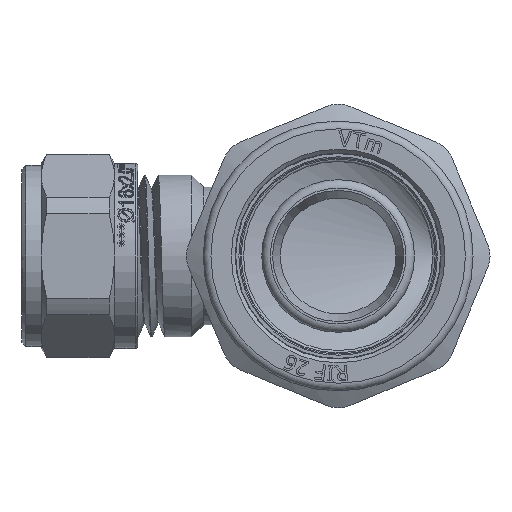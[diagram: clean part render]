
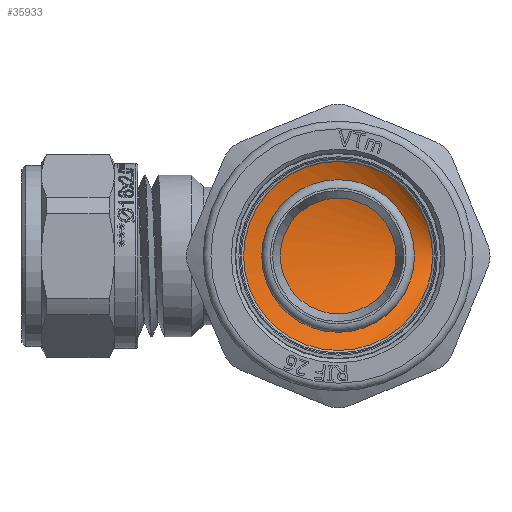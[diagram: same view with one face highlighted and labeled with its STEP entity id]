
A CAD part, left-side view. The second image highlights one B-rep face of the part: STEP entity #35933.
In plain terms, the highlighted cylindrical face has radius 15.25 mm (diameter 30.5 mm), a full revolution.
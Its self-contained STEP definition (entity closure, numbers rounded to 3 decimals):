
#2045=FACE_OUTER_BOUND('',#4084,.T.);
#4084=EDGE_LOOP('',(#24136,#24137,#24138,#24139,#24140,#24141,#24142,#24143));
#6295=CIRCLE('',#37995,15.25);
#6296=CIRCLE('',#37996,15.25);
#6297=CIRCLE('',#37997,15.25);
#7182=B_SPLINE_CURVE_WITH_KNOTS('',3,(#45888,#45889,#45890,#45891,#45892,
#45893,#45894,#45895,#45896,#45897,#45898,#45899,#45900,#45901,#45902,#45903,
#45904,#45905,#45906,#45907,#45908,#45909,#45910,#45911,#45912,#45913,#45914,
#45915,#45916,#45917,#45918,#45919,#45920,#45921),.UNSPECIFIED.,.F.,.F.,
(4,3,3,3,3,3,3,3,3,3,3,4),(1.209,1.479,1.972,
2.465,2.958,3.451,3.944,4.437,
4.93,5.424,5.917,6.096),
 .UNSPECIFIED.);
#7183=B_SPLINE_CURVE_WITH_KNOTS('',3,(#45924,#45925,#45926,#45927,#45928,
#45929,#45930,#45931,#45932,#45933),.UNSPECIFIED.,.F.,.F.,(4,3,3,4),(-1.271,
-0.973,-0.486,-0.148),.UNSPECIFIED.);
#9579=LINE('',#45886,#12017);
#9580=LINE('',#45935,#12018);
#12017=VECTOR('',#39814,15.25);
#12018=VECTOR('',#39817,15.25);
#14455=VERTEX_POINT('',#45884);
#14456=VERTEX_POINT('',#45885);
#14457=VERTEX_POINT('',#45887);
#14458=VERTEX_POINT('',#45922);
#14459=VERTEX_POINT('',#45934);
#14460=VERTEX_POINT('',#45936);
#18358=EDGE_CURVE('',#14455,#14456,#9579,.T.);
#18359=EDGE_CURVE('',#14457,#14455,#7182,.T.);
#18360=EDGE_CURVE('',#14458,#14457,#6295,.T.);
#18361=EDGE_CURVE('',#14456,#14458,#7183,.T.);
#18362=EDGE_CURVE('',#14456,#14459,#9580,.T.);
#18363=EDGE_CURVE('',#14460,#14459,#6296,.T.);
#18364=EDGE_CURVE('',#14459,#14460,#6297,.T.);
#24136=ORIENTED_EDGE('',*,*,#18358,.F.);
#24137=ORIENTED_EDGE('',*,*,#18359,.F.);
#24138=ORIENTED_EDGE('',*,*,#18360,.F.);
#24139=ORIENTED_EDGE('',*,*,#18361,.F.);
#24140=ORIENTED_EDGE('',*,*,#18362,.T.);
#24141=ORIENTED_EDGE('',*,*,#18363,.F.);
#24142=ORIENTED_EDGE('',*,*,#18364,.F.);
#24143=ORIENTED_EDGE('',*,*,#18362,.F.);
#35692=CYLINDRICAL_SURFACE('',#37994,15.25);
#35933=ADVANCED_FACE('',(#2045),#35692,.F.);
#37994=AXIS2_PLACEMENT_3D('',#45883,#39812,#39813);
#37995=AXIS2_PLACEMENT_3D('',#45923,#39815,#39816);
#37996=AXIS2_PLACEMENT_3D('',#45937,#39818,#39819);
#37997=AXIS2_PLACEMENT_3D('',#45938,#39820,#39821);
#39812=DIRECTION('center_axis',(1.,0.,0.));
#39813=DIRECTION('ref_axis',(0.,1.,0.));
#39814=DIRECTION('',(-1.,0.,0.));
#39815=DIRECTION('center_axis',(-1.,0.,0.));
#39816=DIRECTION('ref_axis',(0.,1.,0.));
#39817=DIRECTION('',(-1.,0.,0.));
#39818=DIRECTION('center_axis',(1.,0.,0.));
#39819=DIRECTION('ref_axis',(0.,0.,1.));
#39820=DIRECTION('center_axis',(1.,0.,0.));
#39821=DIRECTION('ref_axis',(0.,0.,1.));
#45883=CARTESIAN_POINT('Origin',(-31.82,0.,
0.));
#45884=CARTESIAN_POINT('',(-27.611,-15.25,0.));
#45885=CARTESIAN_POINT('',(-28.989,-15.25,0.));
#45886=CARTESIAN_POINT('',(-31.82,-15.25,0.));
#45887=CARTESIAN_POINT('',(-29.4,-2.658,-15.017));
#45888=CARTESIAN_POINT('Ctrl Pts',(-29.4,-2.658,-15.015));
#45889=CARTESIAN_POINT('Ctrl Pts',(-29.367,-1.303,-15.255));
#45890=CARTESIAN_POINT('Ctrl Pts',(-29.334,0.084,
-15.313));
#45891=CARTESIAN_POINT('Ctrl Pts',(-29.301,1.453,-15.182));
#45892=CARTESIAN_POINT('Ctrl Pts',(-29.241,3.947,-14.943));
#45893=CARTESIAN_POINT('Ctrl Pts',(-29.181,6.382,-14.077));
#45894=CARTESIAN_POINT('Ctrl Pts',(-29.12,8.466,-12.686));
#45895=CARTESIAN_POINT('Ctrl Pts',(-29.06,10.55,-11.295));
#45896=CARTESIAN_POINT('Ctrl Pts',(-29.,12.284,-9.38));
#45897=CARTESIAN_POINT('Ctrl Pts',(-28.94,13.462,-7.168));
#45898=CARTESIAN_POINT('Ctrl Pts',(-28.88,14.639,-4.956));
#45899=CARTESIAN_POINT('Ctrl Pts',(-28.82,15.261,-2.448));
#45900=CARTESIAN_POINT('Ctrl Pts',(-28.759,15.251,0.057));
#45901=CARTESIAN_POINT('Ctrl Pts',(-28.699,15.242,2.563));
#45902=CARTESIAN_POINT('Ctrl Pts',(-28.639,14.602,5.066));
#45903=CARTESIAN_POINT('Ctrl Pts',(-28.579,13.407,7.269));
#45904=CARTESIAN_POINT('Ctrl Pts',(-28.519,12.213,9.472));
#45905=CARTESIAN_POINT('Ctrl Pts',(-28.459,10.465,11.374));
#45906=CARTESIAN_POINT('Ctrl Pts',(-28.399,8.37,12.749));
#45907=CARTESIAN_POINT('Ctrl Pts',(-28.338,6.275,14.124));
#45908=CARTESIAN_POINT('Ctrl Pts',(-28.278,3.835,14.972));
#45909=CARTESIAN_POINT('Ctrl Pts',(-28.218,1.339,15.192));
#45910=CARTESIAN_POINT('Ctrl Pts',(-28.158,-1.157,
15.412));
#45911=CARTESIAN_POINT('Ctrl Pts',(-28.098,-3.709,15.004));
#45912=CARTESIAN_POINT('Ctrl Pts',(-28.038,-6.012,
14.016));
#45913=CARTESIAN_POINT('Ctrl Pts',(-27.977,-8.314,
13.029));
#45914=CARTESIAN_POINT('Ctrl Pts',(-27.917,-10.369,
11.462));
#45915=CARTESIAN_POINT('Ctrl Pts',(-27.857,-11.93,
9.502));
#45916=CARTESIAN_POINT('Ctrl Pts',(-27.797,-13.491,
7.542));
#45917=CARTESIAN_POINT('Ctrl Pts',(-27.737,-14.559,
5.189));
#45918=CARTESIAN_POINT('Ctrl Pts',(-27.677,-15.006,
2.723));
#45919=CARTESIAN_POINT('Ctrl Pts',(-27.655,-15.169,
1.826));
#45920=CARTESIAN_POINT('Ctrl Pts',(-27.633,-15.25,
0.913));
#45921=CARTESIAN_POINT('Ctrl Pts',(-27.611,-15.249,
0.));
#45922=CARTESIAN_POINT('',(-29.4,-6.611,13.743));
#45923=CARTESIAN_POINT('Origin',(-29.4,0.,
0.));
#45924=CARTESIAN_POINT('Ctrl Pts',(-28.989,-15.249,
0.));
#45925=CARTESIAN_POINT('Ctrl Pts',(-29.025,-15.248,
1.515));
#45926=CARTESIAN_POINT('Ctrl Pts',(-29.062,-15.024,
3.03));
#45927=CARTESIAN_POINT('Ctrl Pts',(-29.098,-14.579,4.478));
#45928=CARTESIAN_POINT('Ctrl Pts',(-29.158,-13.853,6.841));
#45929=CARTESIAN_POINT('Ctrl Pts',(-29.217,-12.541,9.025));
#45930=CARTESIAN_POINT('Ctrl Pts',(-29.276,-10.794,10.774));
#45931=CARTESIAN_POINT('Ctrl Pts',(-29.318,-9.581,
11.989));
#45932=CARTESIAN_POINT('Ctrl Pts',(-29.359,-8.158,
12.995));
#45933=CARTESIAN_POINT('Ctrl Pts',(-29.4,-6.61,
13.741));
#45934=CARTESIAN_POINT('',(-37.245,-15.25,0.));
#45935=CARTESIAN_POINT('',(-31.82,-15.25,0.));
#45936=CARTESIAN_POINT('',(-37.245,15.25,0.));
#45937=CARTESIAN_POINT('Origin',(-37.245,0.,
0.));
#45938=CARTESIAN_POINT('Origin',(-37.245,0.,
0.));
